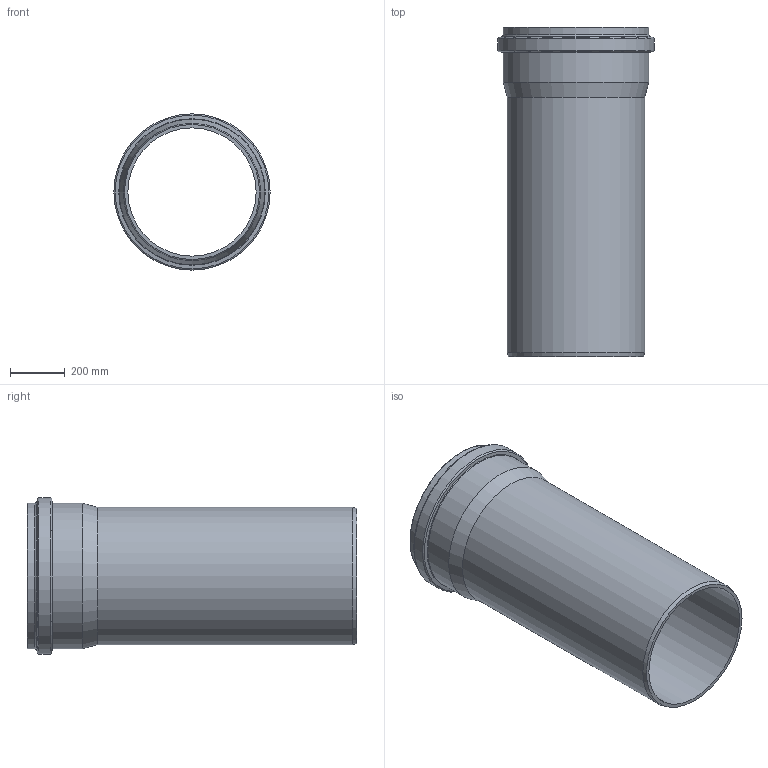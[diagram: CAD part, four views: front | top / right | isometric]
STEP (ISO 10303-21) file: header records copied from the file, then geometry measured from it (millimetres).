
FILE_DESCRIPTION(/* description */ (''),/* implementation_level */ '2;1');
FILE_NAME(/* name */ '771040z.stp',/* time_stamp */ '2025-10-07T12:14:12+02:00',/* author */ ('corinna'),/* organization */ (''),/* preprocessor_version */ 'ST-DEVELOPER v20',/* originating_system */ 'Autodesk Inventor 2024',/* authorisation */ '');
FILE_SCHEMA (('AUTOMOTIVE_DESIGN { 1 0 10303 214 3 1 1 }'));
Length unit declared in the file: millimetre
Products named in the file (1): 771040z
Bounding box: 569 x 1200 x 569 mm (x, y, z)
Volume: 30074169.4 mm3; surface area: 3833429 mm2
Topology: 1 solids, 1 shells, 33 faces, 88 edges, 57 vertices
Faces by surface type: torus 13, cone 10, cylinder 8, plane 2
Full cylindrical faces by diameter (mm): 467 x1, 500 x1, 503.5 x1, 504.5 x1, 530 x1, 530.5 x1, 535 x1, 569 x1
Entity records: 1119 total; most frequent: DIRECTION 226, CARTESIAN_POINT 179, ORIENTED_EDGE 176, AXIS2_PLACEMENT_3D 104, EDGE_CURVE 88, CIRCLE 70, VERTEX_POINT 57, EDGE_LOOP 35
